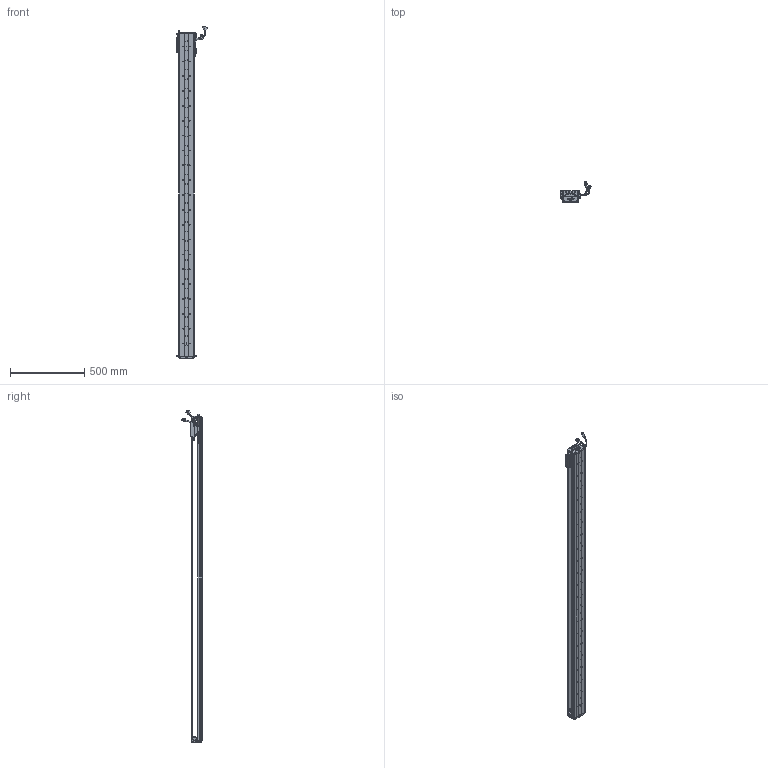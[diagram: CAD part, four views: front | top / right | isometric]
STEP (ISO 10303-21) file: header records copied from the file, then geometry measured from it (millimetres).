
FILE_DESCRIPTION (( 'STEP AP203' ), '1' );
FILE_NAME ('Z1-RY100D-1-L500-B-K.SLDASM_2000.step', '2021-05-17T01:43:05', ( '盈信电脑' ), ( '东莞市道滘镇水果街19号' ), 'SwSTEP 2.0', 'SolidWorks 2016', '' );
FILE_SCHEMA (( 'CONFIG_CONTROL_DESIGN' ));
Length unit declared in the file: millimetre
Products named in the file (36): Z-RY100D詩湍狟揤裔; Z1-RY100-L500詩湍90mm遵_2000; Z1-RY100铝滑块（21款）; COVER; Z1-RY100D-500-倰第菁釱_2000; LABEL; SCALE; PBU_SHEET; SCREW-M1.6-2; SCALE-Part-2; SCREW-M1.6-3; SEAL; 100-Z-臏賑輸盄裔(21遴); SCREW-M1.7; Z-RY100D覜茼んえ; PSLH080_PSLF2; Z-RY100D詩湍奻揤裔; SCREW-M1.7-1; SHIELDPLATE; LABEL-Part-1; COVER-Part-1; HARNESS-Part-1; SCREW-M1.6-1; 080黍杅芛假蚾釱21遴; HOLDER0; Z-100詩湍傷裔啣; 榋妏寠巭燃_暯_M2_2; 140蚥薯蝶輸; SCREW-M1.6; Z1-RY100D-1-L500-B-K.SLDASM_2000; SCALE-Part-1; SEAL-Part-1; HARNESS; HARNESS-Part-2; 140雄赽晤鎢ん堤盄; 覜茼ん672
Assembly tree (44 placements, depth 4):
  Z1-RY100D-1-L500-B-K.SLDASM_2000
    Z1-RY100D-500-倰第菁釱_2000
    Z1-RY100铝滑块（21款）
    PSLH080_PSLF2
      SCALE
        SCALE-Part-1
        SCALE-Part-2
      HARNESS
        HARNESS-Part-1
        HARNESS-Part-2
      LABEL
        LABEL-Part-1
      COVER
        COVER-Part-1
      SEAL
        SEAL-Part-1
      榋妏寠巭燃_暯_M2_2
      SHIELDPLATE
      SCREW-M1.7
      SCREW-M1.7-1
      PBU_SHEET
      SCREW-M1.6
      SCREW-M1.6-1
      SCREW-M1.6-2
      SCREW-M1.6-3
      HOLDER0
    080黍杅芛假蚾釱21遴
    Z-100詩湍傷裔啣  x2
    140蚥薯蝶輸  x2
    覜茼ん672  x4
    Z-RY100D覜茼んえ  x3
    100-Z-臏賑輸盄裔(21遴)
    140雄赽晤鎢ん堤盄
    Z1-RY100-L500詩湍90mm遵_2000
    Z-RY100D詩湍狟揤裔  x2
    Z-RY100D詩湍奻揤裔  x2
Bounding box: 205.84 x 136.11 x 2235.43 mm (x, y, z)
Volume: 3992370.5 mm3; surface area: 1595302.8 mm2
Topology: 39 solids, 39 shells, 2882 faces, 7807 edges, 4988 vertices
Faces by surface type: cylinder 1334, plane 1216, cone 210, torus 69, bspline 53
Entity records: 79547 total; most frequent: CARTESIAN_POINT 16765, DIRECTION 12697, ORIENTED_EDGE 12046, EDGE_CURVE 6023, AXIS2_PLACEMENT_3D 4728, VERTEX_POINT 3896, LINE 3241, VECTOR 3241
